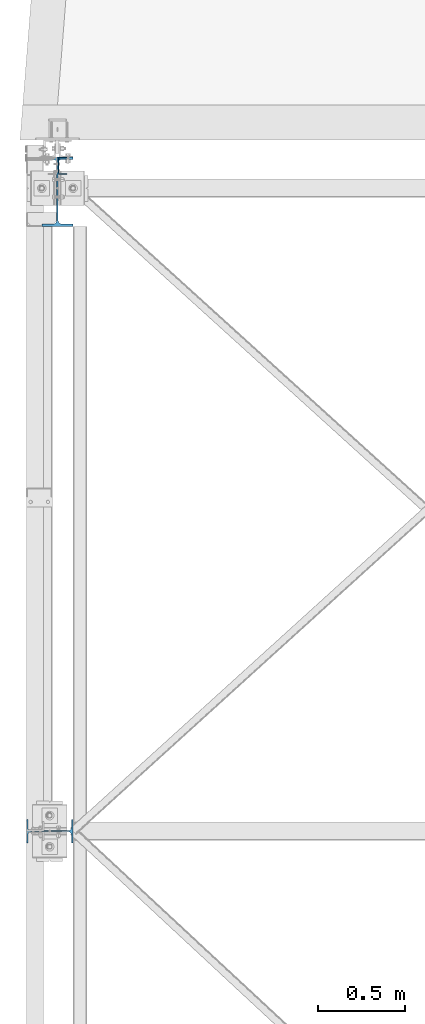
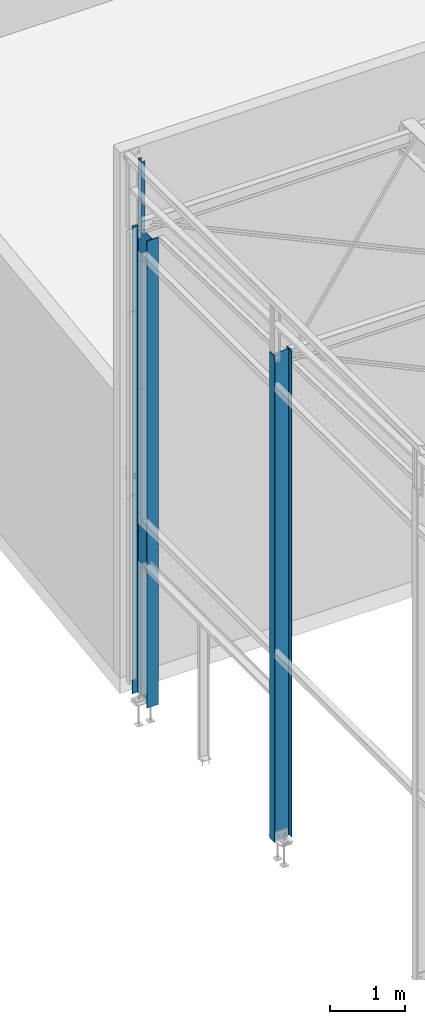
# One storey, part 4 of 123: 3 columns, 3 elements without a shape of their own.
"""IFC2X3 building model written with IfcOpenShell, lengths in millimetres."""

from ifc_helpers import new_model, si_unit, frame, origin_with_axes, origin_2d_with_axis, place, context, subcontext, project, spatial, polyline, i_section, u_section, outline, extrude, boolean, material, type_object, element, aggregate, save


model = new_model("IFC2X3")

# Units and contexts
model_context = context("Model", 3, precision=1e-05, world=origin_with_axes())
body_context = subcontext(model_context, "Body", "Model", "MODEL_VIEW")
ifc_project = project(units=[si_unit("LENGTHUNIT", "METRE", prefix="MILLI"), si_unit("AREAUNIT", "SQUARE_METRE"), si_unit("VOLUMEUNIT", "CUBIC_METRE"), si_unit("MASSUNIT", "GRAM", prefix="KILO"), si_unit("TIMEUNIT", "SECOND"), si_unit("PLANEANGLEUNIT", "RADIAN"), si_unit("SOLIDANGLEUNIT", "STERADIAN"), si_unit("THERMODYNAMICTEMPERATUREUNIT", "DEGREE_CELSIUS"), si_unit("LUMINOUSINTENSITYUNIT", "LUMEN")], contexts=[model_context])

# Site, building, storey
site_placement = place(None, origin_with_axes())
site = spatial("IfcSite", under=ifc_project, at=site_placement, Name="Undefined", CompositionType="ELEMENT")
building_placement = place(site_placement, origin_with_axes())
building = spatial("IfcBuilding", under=site, at=building_placement, Name="Undefined", CompositionType="ELEMENT")
storey_placement = place(building_placement, origin_with_axes())
storey = spatial("IfcBuildingStorey", under=building, at=storey_placement, Name="Undefined", CompositionType="ELEMENT", Elevation=0.0)

# Assembly, column
assembly_1_placement = place(storey_placement, origin_with_axes())
assembly_1 = element("IfcElementAssembly", 1, at=assembly_1_placement, inside=storey, Name="Steel Assembly", AssemblyPlace="NOTDEFINED", PredefinedType="RIGID_FRAME")
ifc_material_1 = material(Name="STEEL/S235-E24")
column_type_1 = type_object("IfcColumnType", Name="UPF-100*50*4", PredefinedType="NOTDEFINED")
column_1_placement = place(assembly_1_placement, frame((28.3000076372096, 15239.9917895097, 7220.00293066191), z_axis=(0.0, 0.0, 1.0), x_axis=(0.0, -1.0, 0.0)))
column_1 = element("IfcColumn", 2, at=column_1_placement, type_object=column_type_1, material=ifc_material_1, Name="BAIONNETTE", ObjectType="UPF-100*50*4", context=body_context, shape_type="CSG", body=[
    boolean("DIFFERENCE", extrude(u_section(Depth=100.0, FlangeWidth=50.0, WebThickness=4.0, FlangeThickness=4.0, at=origin_2d_with_axis()), frame((0.0, 0.0, 1224.9986844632), z_axis=(0.0, 0.0, -1.0), x_axis=(0.0, 1.0, 0.0)), (0.0, 0.0, 1.0), 1225.0), extrude(outline(polyline([(0.0, 0.0), (19.999999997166, 0.0), (19.999999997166, 170.0), (-2.84853740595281e-09, 170.0), (0.0, 0.0)])), frame((-50.0000064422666, -27.5000100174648, 170.000083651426), z_axis=(0.0, 1.0, 0.0), x_axis=(1.0, 0.0, 0.0)), (0.0, 0.0, 1.0), 55.0)),
])
aggregate(assembly_1, [column_1])

assembly_2_placement = place(storey_placement, origin_with_axes())
assembly_2 = element("IfcElementAssembly", 3, at=assembly_2_placement, inside=storey, Name="Steel Assembly", AssemblyPlace="NOTDEFINED", PredefinedType="RIGID_FRAME")
ifc_material_2 = material(Name="STEEL/S275-E28")
column_type_2 = type_object("IfcColumnType", Name="IPE270", PredefinedType="NOTDEFINED")
column_2_placement = place(assembly_2_placement, frame((-45.0, 11400.0, -230.0), z_axis=(0.0, 0.0, 1.0), x_axis=(-1.0, 0.0, 0.0)))
column_2 = element("IfcColumn", 4, at=column_2_placement, type_object=column_type_2, material=ifc_material_2, Name="POTEAU", ObjectType="IPE270", context=body_context, shape_type="SweptSolid", body=[
    extrude(i_section(OverallWidth=135.0, OverallDepth=270.0, WebThickness=6.599999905, FlangeThickness=10.19999981, FilletRadius=15.0, at=origin_2d_with_axis()), frame((0.0, 0.0, 7915.0013155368), z_axis=(0.0, 0.0, -1.0), x_axis=(0.0, 1.0, 0.0)), (0.0, 0.0, 1.0), 7915.0),
])
aggregate(assembly_2, [column_2])

assembly_3_placement = place(storey_placement, origin_with_axes())
assembly_3 = element("IfcElementAssembly", 5, at=assembly_3_placement, inside=storey, Name="Steel Assembly", AssemblyPlace="NOTDEFINED", PredefinedType="RIGID_FRAME")
column_type_3 = type_object("IfcColumnType", Name="IPE400", PredefinedType="NOTDEFINED")
column_3_placement = place(assembly_3_placement, frame((6.54258599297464e-07, 15090.0000024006, -229.999999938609), z_axis=(0.0, 0.0, 1.0), x_axis=(0.0, -1.0, 0.0)))
column_3 = element("IfcColumn", 6, at=column_3_placement, type_object=column_type_3, material=ifc_material_2, Name="POTEAU", ObjectType="IPE400", context=body_context, shape_type="SweptSolid", body=[
    extrude(i_section(OverallWidth=180.0, OverallDepth=400.0, WebThickness=8.600000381, FlangeThickness=13.5, FilletRadius=21.0, at=origin_2d_with_axis()), frame((0.0, 0.0, 7599.99999999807), z_axis=(0.0, 0.0, -1.0), x_axis=(0.0, 1.0, 0.0)), (0.0, 0.0, 1.0), 7600.0),
])
aggregate(assembly_3, [column_3])

save(model, "model.ifc")
